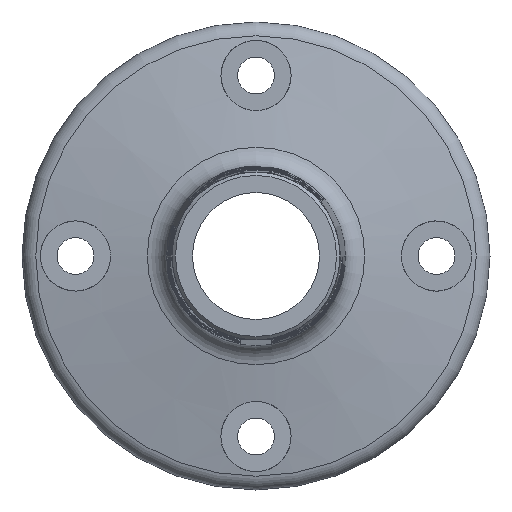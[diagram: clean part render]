
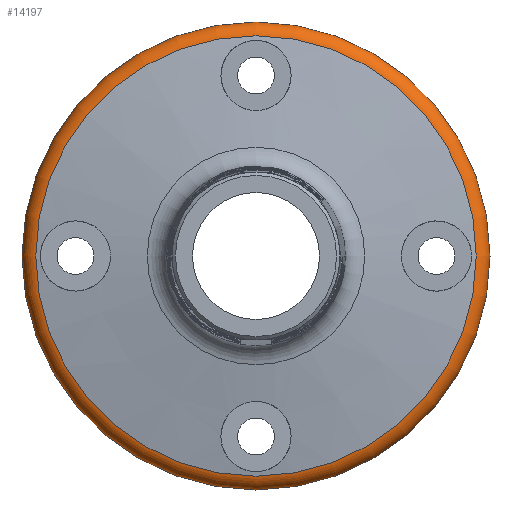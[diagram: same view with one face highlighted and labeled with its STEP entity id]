
A CAD part, left-side view. The second image highlights one B-rep face of the part: STEP entity #14197.
In plain terms, the highlighted toroidal (fillet/blend) face has major radius 32.5 mm and minor radius 2.5 mm.
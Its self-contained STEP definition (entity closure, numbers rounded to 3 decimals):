
#14=TOROIDAL_SURFACE('',#15622,32.5,2.5);
#2679=FACE_OUTER_BOUND('',#3504,.T.);
#3504=EDGE_LOOP('',(#13281,#13282,#13283,#13284,#13285,#13286,#13287,#13288));
#6036=CIRCLE('',#15623,35.);
#6037=CIRCLE('',#15624,35.);
#6038=CIRCLE('',#15625,2.5);
#6039=CIRCLE('',#15626,32.934);
#6040=CIRCLE('',#15627,32.934);
#6041=CIRCLE('',#15628,32.934);
#6042=CIRCLE('',#15629,35.);
#7366=VERTEX_POINT('',#27429);
#7367=VERTEX_POINT('',#27430);
#7368=VERTEX_POINT('',#27432);
#7369=VERTEX_POINT('',#27434);
#7370=VERTEX_POINT('',#27436);
#7371=VERTEX_POINT('',#27438);
#9345=EDGE_CURVE('',#7366,#7367,#6036,.T.);
#9346=EDGE_CURVE('',#7367,#7368,#6037,.T.);
#9347=EDGE_CURVE('',#7368,#7369,#6038,.T.);
#9348=EDGE_CURVE('',#7369,#7370,#6039,.T.);
#9349=EDGE_CURVE('',#7370,#7371,#6040,.T.);
#9350=EDGE_CURVE('',#7371,#7369,#6041,.T.);
#9351=EDGE_CURVE('',#7368,#7366,#6042,.T.);
#13281=ORIENTED_EDGE('',*,*,#9345,.T.);
#13282=ORIENTED_EDGE('',*,*,#9346,.T.);
#13283=ORIENTED_EDGE('',*,*,#9347,.T.);
#13284=ORIENTED_EDGE('',*,*,#9348,.T.);
#13285=ORIENTED_EDGE('',*,*,#9349,.T.);
#13286=ORIENTED_EDGE('',*,*,#9350,.T.);
#13287=ORIENTED_EDGE('',*,*,#9347,.F.);
#13288=ORIENTED_EDGE('',*,*,#9351,.T.);
#14197=ADVANCED_FACE('',(#2679),#14,.T.);
#15622=AXIS2_PLACEMENT_3D('',#27428,#19488,#19489);
#15623=AXIS2_PLACEMENT_3D('',#27431,#19490,#19491);
#15624=AXIS2_PLACEMENT_3D('',#27433,#19492,#19493);
#15625=AXIS2_PLACEMENT_3D('',#27435,#19494,#19495);
#15626=AXIS2_PLACEMENT_3D('',#27437,#19496,#19497);
#15627=AXIS2_PLACEMENT_3D('',#27439,#19498,#19499);
#15628=AXIS2_PLACEMENT_3D('',#27440,#19500,#19501);
#15629=AXIS2_PLACEMENT_3D('',#27441,#19502,#19503);
#19488=DIRECTION('center_axis',(1.,0.,0.));
#19489=DIRECTION('ref_axis',(0.,0.,-1.));
#19490=DIRECTION('center_axis',(-1.,0.,0.));
#19491=DIRECTION('ref_axis',(0.,-1.,0.));
#19492=DIRECTION('center_axis',(-1.,0.,0.));
#19493=DIRECTION('ref_axis',(0.,-1.,0.));
#19494=DIRECTION('center_axis',(0.,-1.,0.));
#19495=DIRECTION('ref_axis',(0.,0.,1.));
#19496=DIRECTION('center_axis',(1.,0.,0.));
#19497=DIRECTION('ref_axis',(0.,-1.,0.));
#19498=DIRECTION('center_axis',(1.,0.,0.));
#19499=DIRECTION('ref_axis',(0.,-1.,0.));
#19500=DIRECTION('center_axis',(1.,0.,0.));
#19501=DIRECTION('ref_axis',(0.,-1.,0.));
#19502=DIRECTION('center_axis',(-1.,0.,0.));
#19503=DIRECTION('ref_axis',(0.,-1.,0.));
#27428=CARTESIAN_POINT('Origin',(-7.402,0.,0.));
#27429=CARTESIAN_POINT('',(-7.402,35.,0.));
#27430=CARTESIAN_POINT('',(-7.402,-35.,0.));
#27431=CARTESIAN_POINT('Origin',(-7.402,0.,0.));
#27432=CARTESIAN_POINT('',(-7.402,0.,35.));
#27433=CARTESIAN_POINT('Origin',(-7.402,0.,0.));
#27434=CARTESIAN_POINT('',(-9.864,0.,32.934));
#27435=CARTESIAN_POINT('Origin',(-7.402,0.,
32.5));
#27436=CARTESIAN_POINT('',(-9.864,-32.934,0.));
#27437=CARTESIAN_POINT('Origin',(-9.864,0.,0.));
#27438=CARTESIAN_POINT('',(-9.864,32.934,0.));
#27439=CARTESIAN_POINT('Origin',(-9.864,0.,0.));
#27440=CARTESIAN_POINT('Origin',(-9.864,0.,0.));
#27441=CARTESIAN_POINT('Origin',(-7.402,0.,0.));
